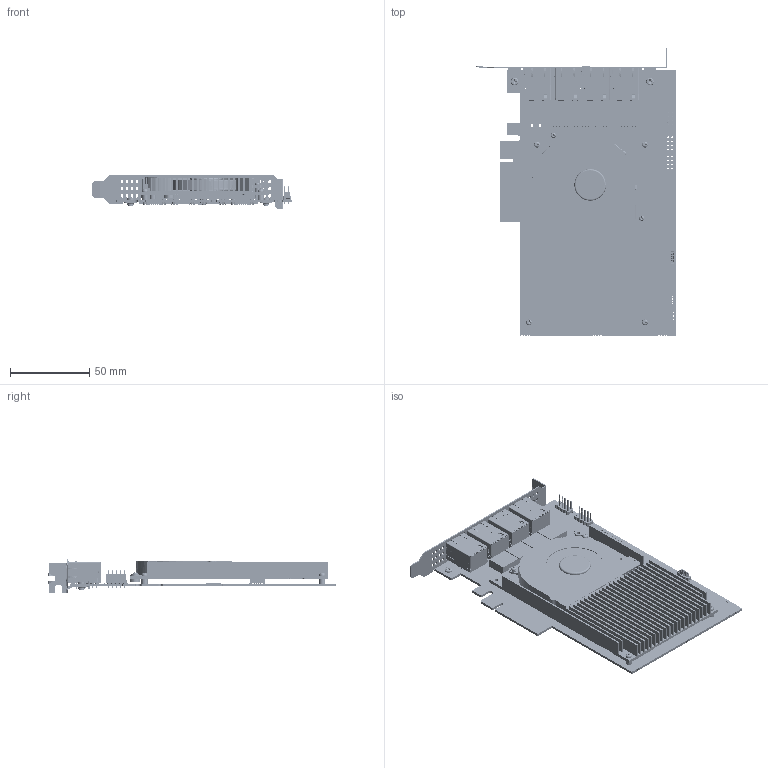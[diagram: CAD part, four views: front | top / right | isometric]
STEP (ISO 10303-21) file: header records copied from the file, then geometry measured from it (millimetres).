
FILE_DESCRIPTION((''),'2;1');
FILE_NAME('ASM0013_ASM','2022-11-02T15:43:16',('jiabaodong'),(''),'CREO PARAMETRIC BY PTC INC, 2020044','CREO PARAMETRIC BY PTC INC, 2020044','');
FILE_SCHEMA(('CONFIG_CONTROL_DESIGN'));
Products named in the file (57): MV-20341REV10_0815-2205-2-135_7; 101106926_4_1_2; PANEL_20_80_200_SINGLE_6_1_2; 910600627_ASM_3_1_2; 910901005_ASM_3_1_2; 101305301_3_1_2; 101301447_5_1_2; 101306305_4_1_2_3_4_1; 101306305_4_1_2_3_4_2; 101306305_4_1_2_3_4_3; 101306305_4_1_2_3_4_4; 101306305_4_1_2_3_4_5; 101306305_4_1_2_3_4_6; 101306305_4_1_2_3_4_7; 101306305_4_1_2_3_4_8; 101306305_4_1_2_3_4_9; 101306305_4_1_2_3_4_10; 101306305_4_1_2_3_4_11; 101306305_4_1_2_3_4_12; 101306305_4_1_2_3_4_13; 101306305_4_1_2_3_4_14; 101306305_4_1_2_3_4_15; 101306305_4_1_2_3_4_16; 101306305_4_1_2_3_4_17; 101306305_4_1_2_3_4_18; 101306305_4_1_2_3_4_19; 101306305_4_1_2_3_4_ASM; 100500107_4_1_2; 193500411_3_1_2; MV-20341REV10_0815-2205-2-135_8_ASM; DE-20-008478_ASM_19_1_2_ASM; DE-11-032820_25_1_2; DE-19-003607_27_1_2; 8002-CLS-M2-0_3_1_2; SC-P0M2X4B-GB818_1_1_2; DE-20-008481_ASM_13_1_2_ASM; DE-19-003609_4_1_2; DE-19-003610_4_1_2; DE-19-003611_4_1_2; DE-19-003612_4_1_2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
Assembly tree (87 placements, depth 10):
  ASM0013_ASM
    000-MV-GT1004_ASM_23_1_2_ASM
      DE-20-008478_ASM_19_1_2_ASM
        MV-20341REV10_0815-2205-2-135_8_ASM
          MV-20341REV10_0815-2205-2-135_7
          101106926_4_1_2
          PANEL_20_80_200_SINGLE_6_1_2
          910600627_ASM_3_1_2  x16
          910901005_ASM_3_1_2  x2
          101305301_3_1_2  x2
          101301447_5_1_2
          101306305_4_1_2_3_4_ASM  x4
            101306305_4_1_2_3_4_1
            101306305_4_1_2_3_4_2
            101306305_4_1_2_3_4_3
            101306305_4_1_2_3_4_4
            101306305_4_1_2_3_4_5
            101306305_4_1_2_3_4_6
            101306305_4_1_2_3_4_7
            101306305_4_1_2_3_4_8
            101306305_4_1_2_3_4_9
            101306305_4_1_2_3_4_10
            101306305_4_1_2_3_4_11
            101306305_4_1_2_3_4_12
            101306305_4_1_2_3_4_13
            101306305_4_1_2_3_4_14
            101306305_4_1_2_3_4_15
            101306305_4_1_2_3_4_16
            101306305_4_1_2_3_4_17
            101306305_4_1_2_3_4_18
            101306305_4_1_2_3_4_19
          100500107_4_1_2  x4
          193500411_3_1_2  x4
      DE-11-032820_25_1_2
      DE-20-008480_ASM_20_1_2_ASM
        DE-20-008481_ASM_13_1_2_ASM
          DE-19-003607_27_1_2
          8002-CLS-M2-0_3_1_2
          SC-P0M2X4B-GB818_1_1_2  x4
        DE-20-008482_ASM_6_1_2_ASM
          DE-19-003608_ASM_4_1_2_ASM
            DE-19-003609_4_1_2
            DE-19-003610_4_1_2
            DE-19-003611_4_1_2
            DE-19-003612_4_1_2
            DE-19-003613_4_1_2
            DE-19-003614_4_1_2
        SVA2500-20220818_ASM_1_1_2_ASM
          SVA2500-HEAT_SINK-ASM_0816_AS_4_ASM
            _-202208120001_ASM_1_ASM_1_AS_4_ASM
              _0001_ASM_ASM_1_ASM_1_ASM_1_A_4_ASM
                _0001_ASM_1_ASM_1_ASM_1_ASM_1_4_ASM
                  0002_ASM_12_ASM_1_ASM_1_ASM_1_4_ASM
            PRT0004_1_1_1_2
      SC-PM3X4_3_1_2  x2
      SC-TWM2X4_3_1_2  x2
Bounding box: 126.31 x 181.07 x 21.59 mm (x, y, z)
Volume: 62204 mm3; surface area: 141749.9 mm2
Topology: 107 solids, 146 shells, 14037 faces, 39118 edges, 25424 vertices
Faces by surface type: plane 9972, cylinder 3501, bspline 441, torus 59, cone 58, revolution 4, sphere 2
Entity records: 163145 total; most frequent: CARTESIAN_POINT 33579, ORIENTED_EDGE 27272, DIRECTION 26273, EDGE_CURVE 13685, VECTOR 10221, LINE 10221, VERTEX_POINT 8945, AXIS2_PLACEMENT_3D 8025
